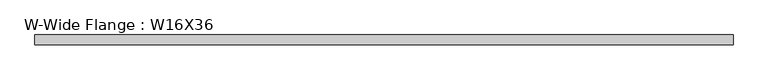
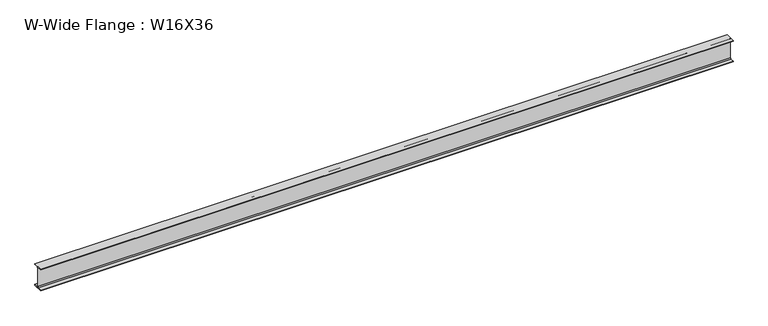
"""IFC4 building model written with IfcOpenShell, lengths in millimetres: beam geometry, W-Wide Flange : W16X36."""

from ifc_helpers import new_model, si_unit, point, frame, frame_2d, origin, place, context, project, spatial, polyline, circle_curve, trimmed, segment, composite_curve, outline, extrude, source, transform, mapped, element, save


def w_wide_flange_w16x36_e2987c07(model_context):
    return source(origin(), model_context, "Body", "SweptSolid", [
        extrude(outline(composite_curve([segment(polyline([(88.773, -191.008), (88.773, -201.93), (-88.773, -201.93), (-88.773, -191.008), (-21.3995, -191.008)]), True, "CONTINUOUS"), segment(trimmed(circle_curve(frame_2d((-21.3995, -173.355)), 17.653), [point((-21.3995, -191.008))], [point((-3.7465, -173.355))], True, "CARTESIAN"), True, "CONTINUOUS"), segment(polyline([(-3.7465, -173.355), (-3.7465, 173.355)]), True, "CONTINUOUS"), segment(trimmed(circle_curve(frame_2d((-21.3995, 173.355)), 17.653), [point((-3.7465, 173.355))], [point((-21.3995, 191.008))], True, "CARTESIAN"), True, "CONTINUOUS"), segment(polyline([(-21.3995, 191.008), (-88.773, 191.008), (-88.773, 201.93), (88.773, 201.93), (88.773, 191.008), (21.3995, 191.008)]), True, "CONTINUOUS"), segment(trimmed(circle_curve(frame_2d((21.3995, 173.355)), 17.653), [point((21.3995, 191.008))], [point((3.7465, 173.355))], True, "CARTESIAN"), True, "CONTINUOUS"), segment(polyline([(3.7465, 173.355), (3.7465, -173.355)]), True, "CONTINUOUS"), segment(trimmed(circle_curve(frame_2d((21.3995, -173.355)), 17.653), [point((3.7465, -173.355))], [point((21.3995, -191.008))], True, "CARTESIAN"), True, "CONTINUOUS"), segment(polyline([(21.3995, -191.008), (88.773, -191.008)]), True, "CONTINUOUS")], self_intersect=False)), frame((-6585.790112, 0.0, 0.0), z_axis=(1.0, 0.0, 0.0), x_axis=(0.0, 1.0, 0.0)), (0.0, 0.0, 1.0), 12417.0483629),
    ])


if __name__ == "__main__":
    model = new_model("IFC4")
    model_context = context("Model", 3, world=origin())
    ifc_project = project(units=[si_unit("LENGTHUNIT", "METRE", prefix="MILLI")], contexts=[model_context])
    site = spatial("IfcSite", under=ifc_project)
    building = spatial("IfcBuilding", under=site)
    placement = place(None, origin())
    w_wide_flange_w16x36_shape = w_wide_flange_w16x36_e2987c07(model_context)
    element("IfcBeam", 1, ObjectType="W-Wide Flange : W16X36", at=placement, inside=building, context=model_context, shape_type="MappedRepresentation", body=[
        mapped(w_wide_flange_w16x36_shape, transform((0.0, 0.0, 0.0), x_axis=(1.0, 0.0, 0.0), y_axis=(0.0, 1.0, 0.0), z_axis=(0.0, 0.0, 1.0))),
    ])
    save(model, "model.ifc")
